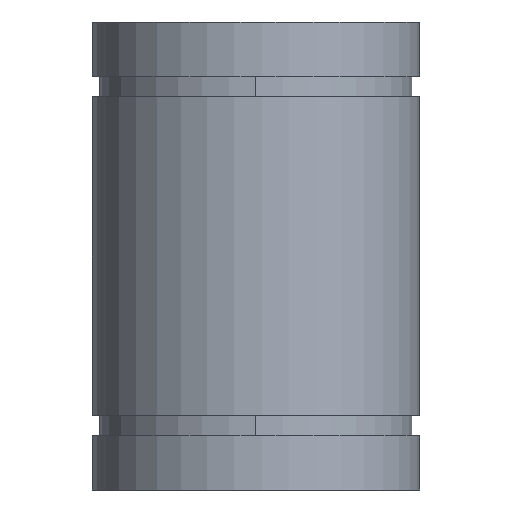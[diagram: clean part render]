
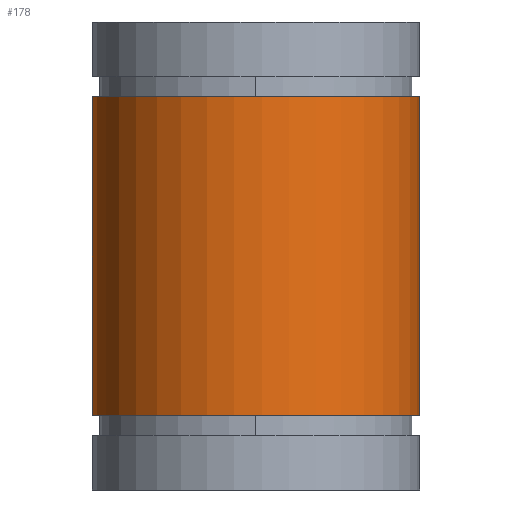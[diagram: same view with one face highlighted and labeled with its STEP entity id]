
A CAD part, front view. The second image highlights one B-rep face of the part: STEP entity #178.
In plain terms, the highlighted cylindrical face has radius 10.5 mm (diameter 21 mm), a partial arc.
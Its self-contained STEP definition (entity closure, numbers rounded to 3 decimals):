
#137=CARTESIAN_POINT('',(0.0,0.0,0.0));
#138=DIRECTION('',(0.0,0.0,1.0));
#139=DIRECTION('',(-1.0,0.0,0.0));
#140=AXIS2_PLACEMENT_3D('',#137,#138,#139);
#141=CYLINDRICAL_SURFACE('',#140,10.5);
#142=CARTESIAN_POINT('',(10.5,0.,25.2));
#143=VERTEX_POINT('',#142);
#144=CARTESIAN_POINT('',(10.5,0.,4.8));
#145=VERTEX_POINT('',#144);
#146=CARTESIAN_POINT('',(10.5,0.,25.2));
#147=DIRECTION('',(0.0,0.0,-1.0));
#148=VECTOR('',#147,20.4);
#149=LINE('',#146,#148);
#150=EDGE_CURVE('',#143,#145,#149,.T.);
#151=ORIENTED_EDGE('',*,*,#150,.F.);
#152=CARTESIAN_POINT('',(-10.473,-0.75,25.2));
#153=VERTEX_POINT('',#152);
#154=CARTESIAN_POINT('',(0.0,0.0,25.2));
#155=DIRECTION('',(0.0,0.0,-1.0));
#156=DIRECTION('',(-1.0,0.0,0.0));
#157=AXIS2_PLACEMENT_3D('',#154,#155,#156);
#158=CIRCLE('',#157,10.5);
#159=EDGE_CURVE('',#143,#153,#158,.T.);
#160=ORIENTED_EDGE('',*,*,#159,.T.);
#161=CARTESIAN_POINT('',(-10.473,-0.75,4.8));
#162=VERTEX_POINT('',#161);
#163=CARTESIAN_POINT('',(-10.473,-0.75,25.2));
#164=DIRECTION('',(0.0,0.0,-1.0));
#165=VECTOR('',#164,20.4);
#166=LINE('',#163,#165);
#167=EDGE_CURVE('',#153,#162,#166,.T.);
#168=ORIENTED_EDGE('',*,*,#167,.T.);
#169=CARTESIAN_POINT('',(0.0,0.0,4.8));
#170=DIRECTION('',(0.0,0.0,1.0));
#171=DIRECTION('',(-1.0,0.0,0.0));
#172=AXIS2_PLACEMENT_3D('',#169,#170,#171);
#173=CIRCLE('',#172,10.5);
#174=EDGE_CURVE('',#162,#145,#173,.T.);
#175=ORIENTED_EDGE('',*,*,#174,.T.);
#176=EDGE_LOOP('',(#151,#160,#168,#175));
#177=FACE_OUTER_BOUND('',#176,.T.);
#178=ADVANCED_FACE('',(#177),#141,.T.);
